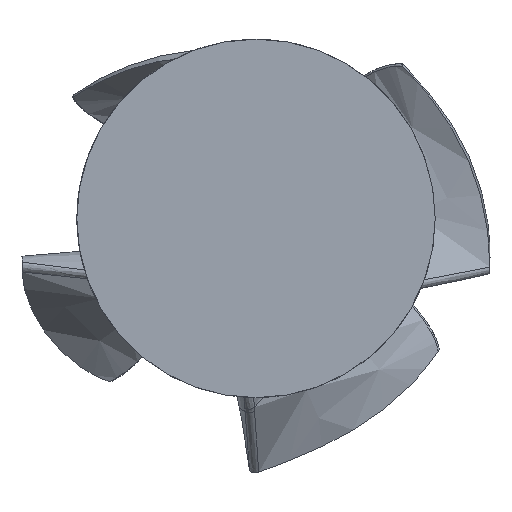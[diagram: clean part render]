
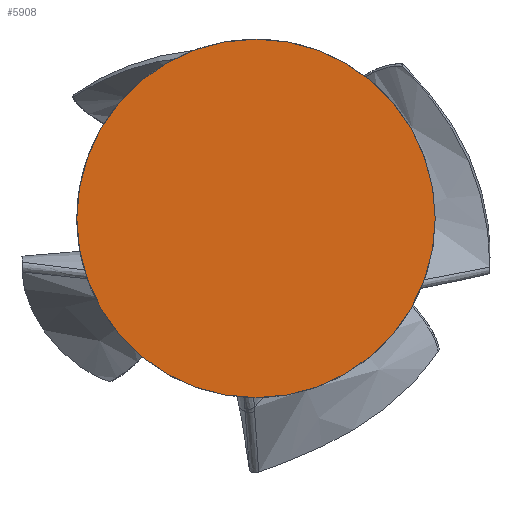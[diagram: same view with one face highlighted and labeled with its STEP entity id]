
A CAD part, left-side view. The second image highlights one B-rep face of the part: STEP entity #5908.
In plain terms, the highlighted planar face has unit normal (-1, 0, 0) as drawn and (0, -1, 0) by its records, which use the part's own axes.
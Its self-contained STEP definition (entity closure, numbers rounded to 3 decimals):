
#414=PLANE('',#6277);
#1530=FACE_OUTER_BOUND('',#1868,.T.);
#1868=EDGE_LOOP('',(#5271));
#1971=CIRCLE('',#6271,30.);
#2845=VERTEX_POINT('',#13377);
#3665=EDGE_CURVE('',#2845,#2845,#1971,.T.);
#5271=ORIENTED_EDGE('',*,*,#3665,.F.);
#5908=ADVANCED_FACE('',(#1530),#414,.F.);
#6271=AXIS2_PLACEMENT_3D('',#13379,#7200,#7201);
#6277=AXIS2_PLACEMENT_3D('',#13614,#7214,#7215);
#7200=DIRECTION('center_axis',(0.,1.,0.));
#7201=DIRECTION('ref_axis',(-1.,0.,0.));
#7214=DIRECTION('center_axis',(0.,1.,0.));
#7215=DIRECTION('ref_axis',(0.,0.,1.));
#13377=CARTESIAN_POINT('',(30.,0.,0.));
#13379=CARTESIAN_POINT('Origin',(0.,0.,0.));
#13614=CARTESIAN_POINT('Origin',(0.,0.,0.));
